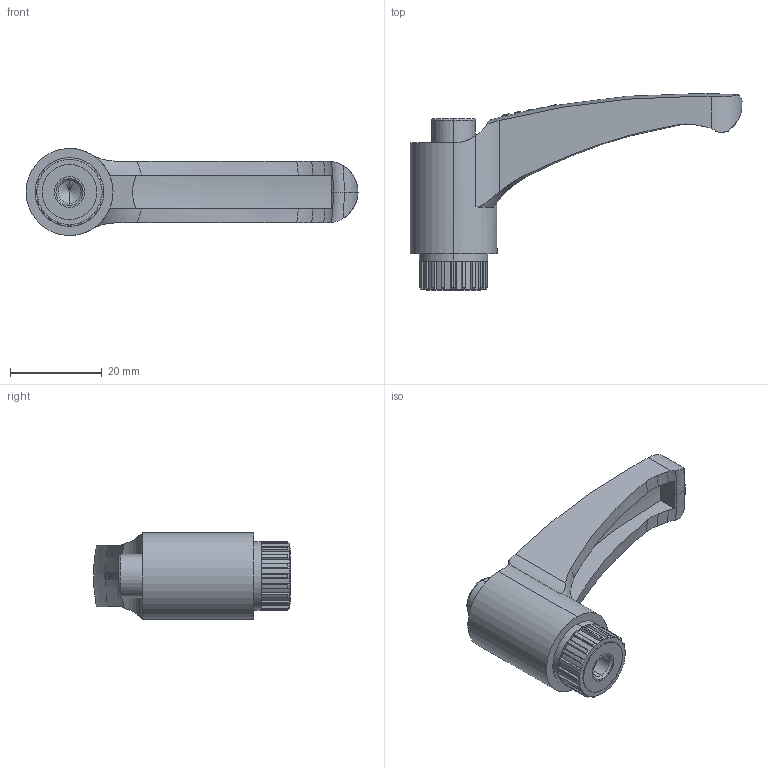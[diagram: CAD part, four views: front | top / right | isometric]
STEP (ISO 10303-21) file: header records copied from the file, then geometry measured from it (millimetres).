
FILE_DESCRIPTION (( 'STEP AP214' ), '1' );
FILE_NAME ('2.9006 Kiinnitysvipu M6 sisäkierteellä.STEP', '2025-09-10T08:07:21', ( '' ), ( '' ), 'SwSTEP 2.0', 'SolidWorks 2025', '' );
FILE_SCHEMA (( 'AUTOMOTIVE_DESIGN' ));
Length unit declared in the file: millimetre
Products named in the file (1): 2.9006 Kiinnitysvipu M6 sisäkierteellä
Bounding box: 72.5 x 42.99 x 19 mm (x, y, z)
Volume: 13512.1 mm3; surface area: 6068.6 mm2
Topology: 1 solids, 1 shells, 179 faces, 494 edges, 316 vertices
Faces by surface type: cylinder 69, plane 54, cone 28, torus 16, bspline 12
Entity records: 6247 total; most frequent: CARTESIAN_POINT 1732, ORIENTED_EDGE 964, DIRECTION 907, EDGE_CURVE 482, AXIS2_PLACEMENT_3D 351, VERTEX_POINT 316, LINE 205, VECTOR 205
